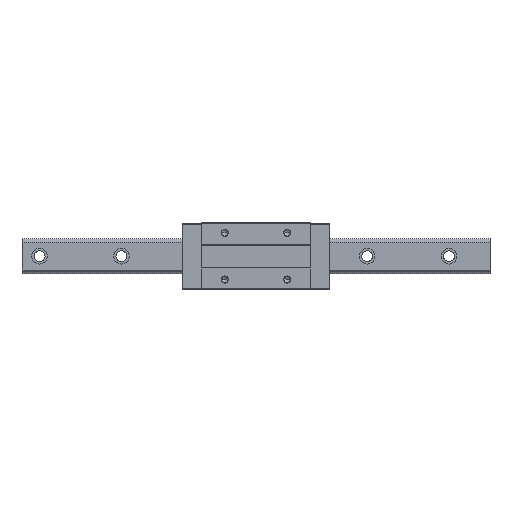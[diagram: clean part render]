
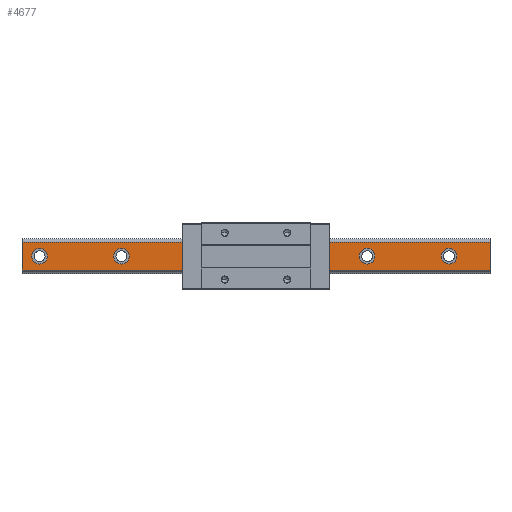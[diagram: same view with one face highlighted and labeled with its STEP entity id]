
A CAD part, top view. The second image highlights one B-rep face of the part: STEP entity #4677.
In plain terms, the highlighted planar face has unit normal (0, 0, 1).
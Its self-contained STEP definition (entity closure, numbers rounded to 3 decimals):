
#12 = DIRECTION ( 'NONE',  ( 0., 0., 1. ) ) ;
#19 = VECTOR ( 'NONE', #380, 1000. ) ;
#31 = VERTEX_POINT ( 'NONE', #2124 ) ;
#32 = DIRECTION ( 'NONE',  ( 0., 0., 1. ) ) ;
#39 = CARTESIAN_POINT ( 'NONE',  ( 300., -17.696, 32. ) ) ;
#66 = DIRECTION ( 'NONE',  ( 1., 0., 0. ) ) ;
#96 = CIRCLE ( 'NONE', #3455, 10. ) ;
#144 = CIRCLE ( 'NONE', #2861, 10. ) ;
#179 = CARTESIAN_POINT ( 'NONE',  ( -267.5, 0., 32. ) ) ;
#232 = CARTESIAN_POINT ( 'NONE',  ( -300., -17.696, 32. ) ) ;
#273 = AXIS2_PLACEMENT_3D ( 'NONE', #438, #12, #5205 ) ;
#302 = CARTESIAN_POINT ( 'NONE',  ( 300., 17.696, 32. ) ) ;
#364 = EDGE_LOOP ( 'NONE', ( #5368, #3481 ) ) ;
#380 = DIRECTION ( 'NONE',  ( 0., -1., 0. ) ) ;
#401 = ORIENTED_EDGE ( 'NONE', *, *, #5569, .T. ) ;
#406 = EDGE_CURVE ( 'NONE', #2715, #1557, #144, .T. ) ;
#438 = CARTESIAN_POINT ( 'NONE',  ( 142.5, 0., 32. ) ) ;
#481 = ORIENTED_EDGE ( 'NONE', *, *, #5171, .T. ) ;
#509 = DIRECTION ( 'NONE',  ( 0., 0., 1. ) ) ;
#538 = CARTESIAN_POINT ( 'NONE',  ( -300., 17.696, 32. ) ) ;
#600 = VERTEX_POINT ( 'NONE', #3637 ) ;
#771 = VERTEX_POINT ( 'NONE', #4980 ) ;
#775 = CARTESIAN_POINT ( 'NONE',  ( -277.5, 0., 32. ) ) ;
#825 = ORIENTED_EDGE ( 'NONE', *, *, #4616, .F. ) ;
#885 = ORIENTED_EDGE ( 'NONE', *, *, #948, .F. ) ;
#948 = EDGE_CURVE ( 'NONE', #31, #2686, #4891, .T. ) ;
#960 = EDGE_LOOP ( 'NONE', ( #1870, #885 ) ) ;
#988 = DIRECTION ( 'NONE',  ( 0., 0., 1. ) ) ;
#993 = CIRCLE ( 'NONE', #273, 10. ) ;
#1018 = FACE_BOUND ( 'NONE', #2555, .T. ) ;
#1071 = EDGE_CURVE ( 'NONE', #2375, #3441, #993, .T. ) ;
#1135 = LINE ( 'NONE', #1215, #19 ) ;
#1171 = LINE ( 'NONE', #302, #2453 ) ;
#1184 = LINE ( 'NONE', #3827, #5345 ) ;
#1185 = EDGE_LOOP ( 'NONE', ( #4263, #1660 ) ) ;
#1212 = DIRECTION ( 'NONE',  ( 0., 0., 1. ) ) ;
#1215 = CARTESIAN_POINT ( 'NONE',  ( -300., -17.696, 32. ) ) ;
#1282 = DIRECTION ( 'NONE',  ( 0., 0., 1. ) ) ;
#1319 = CARTESIAN_POINT ( 'NONE',  ( 300., 17.696, 32. ) ) ;
#1334 = EDGE_CURVE ( 'NONE', #2289, #5363, #1184, .T. ) ;
#1358 = CIRCLE ( 'NONE', #4808, 10. ) ;
#1380 = DIRECTION ( 'NONE',  ( 1., 0., 0. ) ) ;
#1399 = EDGE_CURVE ( 'NONE', #4283, #4656, #2115, .T. ) ;
#1418 = CARTESIAN_POINT ( 'NONE',  ( 247.5, 0., 32. ) ) ;
#1557 = VERTEX_POINT ( 'NONE', #4053 ) ;
#1568 = CARTESIAN_POINT ( 'NONE',  ( -277.5, 0., 32. ) ) ;
#1619 = CARTESIAN_POINT ( 'NONE',  ( -172.5, 0., 32. ) ) ;
#1631 = ORIENTED_EDGE ( 'NONE', *, *, #1071, .F. ) ;
#1646 = DIRECTION ( 'NONE',  ( 0., 0., 1. ) ) ;
#1660 = ORIENTED_EDGE ( 'NONE', *, *, #2762, .F. ) ;
#1664 = DIRECTION ( 'NONE',  ( -1., 0., 0. ) ) ;
#1851 = AXIS2_PLACEMENT_3D ( 'NONE', #1619, #1646, #5060 ) ;
#1852 = DIRECTION ( 'NONE',  ( 0., 0., 1. ) ) ;
#1870 = ORIENTED_EDGE ( 'NONE', *, *, #4366, .F. ) ;
#1928 = CIRCLE ( 'NONE', #2023, 10. ) ;
#1931 = CARTESIAN_POINT ( 'NONE',  ( 152.5, 0., 32. ) ) ;
#1959 = ORIENTED_EDGE ( 'NONE', *, *, #3688, .F. ) ;
#1996 = AXIS2_PLACEMENT_3D ( 'NONE', #1418, #988, #2685 ) ;
#2023 = AXIS2_PLACEMENT_3D ( 'NONE', #775, #1212, #3324 ) ;
#2028 = DIRECTION ( 'NONE',  ( 1., 0., 0. ) ) ;
#2075 = CARTESIAN_POINT ( 'NONE',  ( 37.5, 0., 32. ) ) ;
#2082 = LINE ( 'NONE', #3790, #5122 ) ;
#2115 = CIRCLE ( 'NONE', #4835, 10. ) ;
#2122 = AXIS2_PLACEMENT_3D ( 'NONE', #2075, #3387, #2895 ) ;
#2124 = CARTESIAN_POINT ( 'NONE',  ( -287.5, 0., 32. ) ) ;
#2145 = DIRECTION ( 'NONE',  ( 0., 0., -1. ) ) ;
#2231 = EDGE_CURVE ( 'NONE', #3441, #2375, #1358, .T. ) ;
#2289 = VERTEX_POINT ( 'NONE', #39 ) ;
#2334 = CARTESIAN_POINT ( 'NONE',  ( 257.5, 0., 32. ) ) ;
#2375 = VERTEX_POINT ( 'NONE', #1931 ) ;
#2418 = DIRECTION ( 'NONE',  ( 1., 0., 0. ) ) ;
#2443 = CARTESIAN_POINT ( 'NONE',  ( -77.5, 0., 32. ) ) ;
#2444 = AXIS2_PLACEMENT_3D ( 'NONE', #1568, #3305, #2028 ) ;
#2453 = VECTOR ( 'NONE', #2905, 1000. ) ;
#2536 = DIRECTION ( 'NONE',  ( -1., 0., 0. ) ) ;
#2555 = EDGE_LOOP ( 'NONE', ( #5016, #825 ) ) ;
#2577 = EDGE_CURVE ( 'NONE', #4110, #771, #4939, .T. ) ;
#2603 = EDGE_LOOP ( 'NONE', ( #4814, #3540 ) ) ;
#2685 = DIRECTION ( 'NONE',  ( 1., 0., 0. ) ) ;
#2686 = VERTEX_POINT ( 'NONE', #179 ) ;
#2714 = CARTESIAN_POINT ( 'NONE',  ( -182.5, 0., 32. ) ) ;
#2715 = VERTEX_POINT ( 'NONE', #2334 ) ;
#2757 = EDGE_CURVE ( 'NONE', #4386, #600, #4572, .T. ) ;
#2762 = EDGE_CURVE ( 'NONE', #4656, #4283, #4218, .T. ) ;
#2861 = AXIS2_PLACEMENT_3D ( 'NONE', #4430, #1852, #3929 ) ;
#2895 = DIRECTION ( 'NONE',  ( 1., 0., 0. ) ) ;
#2896 = EDGE_CURVE ( 'NONE', #600, #4386, #96, .T. ) ;
#2905 = DIRECTION ( 'NONE',  ( -1., 0., 0. ) ) ;
#2917 = EDGE_CURVE ( 'NONE', #771, #4110, #4270, .T. ) ;
#2968 = CARTESIAN_POINT ( 'NONE',  ( 300., -17.696, 32. ) ) ;
#2974 = ORIENTED_EDGE ( 'NONE', *, *, #2231, .F. ) ;
#3046 = CARTESIAN_POINT ( 'NONE',  ( 142.5, 0., 32. ) ) ;
#3057 = DIRECTION ( 'NONE',  ( 0., 0., 1. ) ) ;
#3123 = FACE_OUTER_BOUND ( 'NONE', #4823, .T. ) ;
#3183 = FACE_BOUND ( 'NONE', #364, .T. ) ;
#3213 = FACE_BOUND ( 'NONE', #960, .T. ) ;
#3305 = DIRECTION ( 'NONE',  ( 0., 0., 1. ) ) ;
#3324 = DIRECTION ( 'NONE',  ( 1., 0., 0. ) ) ;
#3387 = DIRECTION ( 'NONE',  ( 0., 0., 1. ) ) ;
#3441 = VERTEX_POINT ( 'NONE', #3565 ) ;
#3455 = AXIS2_PLACEMENT_3D ( 'NONE', #3918, #32, #2418 ) ;
#3481 = ORIENTED_EDGE ( 'NONE', *, *, #2577, .F. ) ;
#3503 = CARTESIAN_POINT ( 'NONE',  ( -67.5, 0., 32. ) ) ;
#3540 = ORIENTED_EDGE ( 'NONE', *, *, #2757, .F. ) ;
#3565 = CARTESIAN_POINT ( 'NONE',  ( 132.5, 0., 32. ) ) ;
#3637 = CARTESIAN_POINT ( 'NONE',  ( 47.5, 0., 32. ) ) ;
#3662 = AXIS2_PLACEMENT_3D ( 'NONE', #3503, #4405, #4303 ) ;
#3688 = EDGE_CURVE ( 'NONE', #4892, #2289, #2082, .T. ) ;
#3790 = CARTESIAN_POINT ( 'NONE',  ( 300., -17.696, 32. ) ) ;
#3827 = CARTESIAN_POINT ( 'NONE',  ( 300., -17.696, 32. ) ) ;
#3918 = CARTESIAN_POINT ( 'NONE',  ( 37.5, 0., 32. ) ) ;
#3929 = DIRECTION ( 'NONE',  ( 1., 0., 0. ) ) ;
#3976 = FACE_BOUND ( 'NONE', #1185, .T. ) ;
#3995 = AXIS2_PLACEMENT_3D ( 'NONE', #4033, #509, #4797 ) ;
#3999 = ORIENTED_EDGE ( 'NONE', *, *, #1334, .F. ) ;
#4027 = CARTESIAN_POINT ( 'NONE',  ( -172.5, 0., 32. ) ) ;
#4033 = CARTESIAN_POINT ( 'NONE',  ( -67.5, 0., 32. ) ) ;
#4053 = CARTESIAN_POINT ( 'NONE',  ( 237.5, 0., 32. ) ) ;
#4110 = VERTEX_POINT ( 'NONE', #2443 ) ;
#4113 = PLANE ( 'NONE',  #4629 ) ;
#4218 = CIRCLE ( 'NONE', #1851, 10. ) ;
#4263 = ORIENTED_EDGE ( 'NONE', *, *, #1399, .F. ) ;
#4270 = CIRCLE ( 'NONE', #3995, 10. ) ;
#4283 = VERTEX_POINT ( 'NONE', #4545 ) ;
#4303 = DIRECTION ( 'NONE',  ( 1., 0., 0. ) ) ;
#4361 = VERTEX_POINT ( 'NONE', #538 ) ;
#4366 = EDGE_CURVE ( 'NONE', #2686, #31, #1928, .T. ) ;
#4386 = VERTEX_POINT ( 'NONE', #5056 ) ;
#4405 = DIRECTION ( 'NONE',  ( 0., 0., 1. ) ) ;
#4430 = CARTESIAN_POINT ( 'NONE',  ( 247.5, 0., 32. ) ) ;
#4441 = CIRCLE ( 'NONE', #1996, 10. ) ;
#4545 = CARTESIAN_POINT ( 'NONE',  ( -162.5, 0., 32. ) ) ;
#4572 = CIRCLE ( 'NONE', #2122, 10. ) ;
#4616 = EDGE_CURVE ( 'NONE', #1557, #2715, #4441, .T. ) ;
#4629 = AXIS2_PLACEMENT_3D ( 'NONE', #2968, #2145, #2536 ) ;
#4656 = VERTEX_POINT ( 'NONE', #2714 ) ;
#4677 = ADVANCED_FACE ( 'NONE', ( #3213, #3976, #3183, #4909, #4854, #1018, #3123 ), #4113, .F. ) ;
#4797 = DIRECTION ( 'NONE',  ( 1., 0., 0. ) ) ;
#4808 = AXIS2_PLACEMENT_3D ( 'NONE', #3046, #1282, #66 ) ;
#4814 = ORIENTED_EDGE ( 'NONE', *, *, #2896, .F. ) ;
#4823 = EDGE_LOOP ( 'NONE', ( #401, #3999, #1959, #481 ) ) ;
#4835 = AXIS2_PLACEMENT_3D ( 'NONE', #4027, #3057, #1380 ) ;
#4854 = FACE_BOUND ( 'NONE', #5559, .T. ) ;
#4891 = CIRCLE ( 'NONE', #2444, 10. ) ;
#4892 = VERTEX_POINT ( 'NONE', #1319 ) ;
#4909 = FACE_BOUND ( 'NONE', #2603, .T. ) ;
#4939 = CIRCLE ( 'NONE', #3662, 10. ) ;
#4980 = CARTESIAN_POINT ( 'NONE',  ( -57.5, 0., 32. ) ) ;
#5016 = ORIENTED_EDGE ( 'NONE', *, *, #406, .F. ) ;
#5056 = CARTESIAN_POINT ( 'NONE',  ( 27.5, 0., 32. ) ) ;
#5060 = DIRECTION ( 'NONE',  ( 1., 0., 0. ) ) ;
#5122 = VECTOR ( 'NONE', #5523, 1000. ) ;
#5171 = EDGE_CURVE ( 'NONE', #4892, #4361, #1171, .T. ) ;
#5205 = DIRECTION ( 'NONE',  ( 1., 0., 0. ) ) ;
#5345 = VECTOR ( 'NONE', #1664, 1000. ) ;
#5363 = VERTEX_POINT ( 'NONE', #232 ) ;
#5368 = ORIENTED_EDGE ( 'NONE', *, *, #2917, .F. ) ;
#5523 = DIRECTION ( 'NONE',  ( 0., -1., 0. ) ) ;
#5559 = EDGE_LOOP ( 'NONE', ( #1631, #2974 ) ) ;
#5569 = EDGE_CURVE ( 'NONE', #4361, #5363, #1135, .T. ) ;
